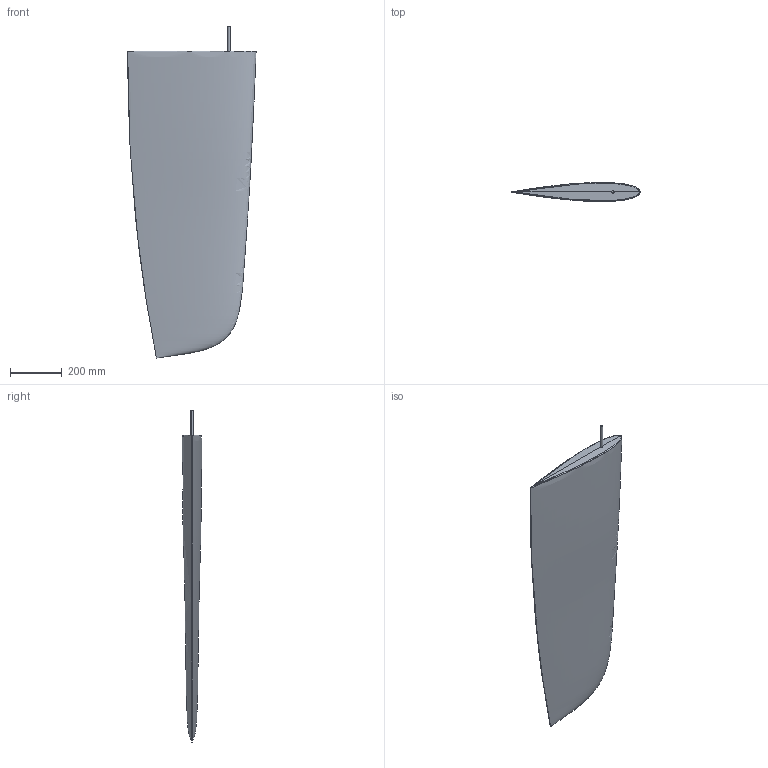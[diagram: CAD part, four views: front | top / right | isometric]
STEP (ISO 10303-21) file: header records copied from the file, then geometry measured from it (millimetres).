
FILE_DESCRIPTION (( 'STEP AP214' ), '1' );
FILE_NAME ('RUD26.STEP', '2011-02-21T07:05:46', ( '' ), ( '' ), 'SwSTEP 2.0', 'SolidWorks 2010', '' );
FILE_SCHEMA (( 'AUTOMOTIVE_DESIGN' ));
Length unit declared in the file: millimetre
Products named in the file (1): RUD26
Bounding box: 494.96 x 74.16 x 1282.22 mm (x, y, z)
Volume: 20255786 mm3; surface area: 1045657.4 mm2
Topology: 1 solids, 1 shells, 14 faces, 34 edges, 20 vertices
Faces by surface type: bspline 8, plane 4, cylinder 2
Entity records: 26948 total; most frequent: CARTESIAN_POINT 26661, ORIENTED_EDGE 64, EDGE_CURVE 32, DIRECTION 28, VERTEX_POINT 20, B_SPLINE_CURVE_WITH_KNOTS 20, EDGE_LOOP 14, FACE_OUTER_BOUND 14
